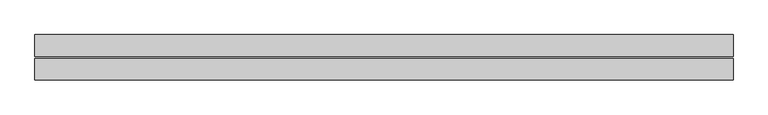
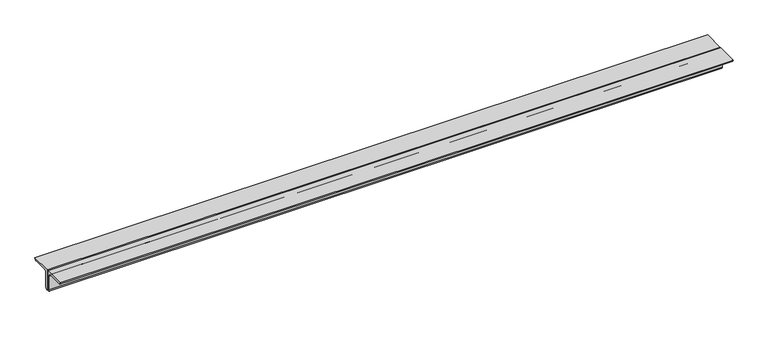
"""IFC4 building model written with IfcOpenShell, lengths in millimetres: beam geometry, Profilati doppi a L : DCED150x12."""

import ifcopenshell
import ifcopenshell.guid

model = None  # the IFC model being written
_history = None  # IfcOwnerHistory: only IFC2X3 demands one
_inside = {}  # id of a spatial element -> (the spatial element, [elements in it])
_under = {}  # id of a project, library or spatial element -> (it, [spatial elements below it])
_declared = {}  # id of a project -> (the project, [libraries it declares])
_typed = {}  # id of a type object -> (the type object, [elements of that type])
_made_of = {}  # id of a material, layer set ... -> (it, [elements and type objects made of it])


def new_model(schema):
    """Start an empty IFC model of exactly this schema.

    Asked for "IFC4X3", IfcOpenShell would pick the latest addendum, in which some entities
    have other attributes; the version numbers below select the first issue.
    IFC2X3 requires an IfcOwnerHistory on every rooted entity: one is made here for all.
    """
    global model, _history
    if schema == "IFC4X3":
        model = ifcopenshell.file(schema_version=(4, 3, 0, 0))
    else:
        model = ifcopenshell.file(schema=schema)
    _inside.clear()
    _under.clear()
    _declared.clear()
    _typed.clear()
    _made_of.clear()
    _history = None
    if model.schema == "IFC2X3":
        org = make("IfcOrganization", Name="unknown")
        user = make(
            "IfcPersonAndOrganization",
            ThePerson=make("IfcPerson", FamilyName="unknown"),
            TheOrganization=org,
        )
        app = make(
            "IfcApplication",
            ApplicationDeveloper=org,
            Version="unknown",
            ApplicationFullName="unknown",
            ApplicationIdentifier="unknown",
        )
        _history = make(
            "IfcOwnerHistory",
            OwningUser=user,
            OwningApplication=app,
            ChangeAction="ADDED",
            CreationDate=0,
        )
    return model


def make(cls, **values):
    """One entity of the class cls with the attributes given. An attribute that is None is left unset."""
    return model.create_entity(
        cls, **{name: value for name, value in values.items() if value is not None}
    )


def rooted(cls, **values):
    """An entity with a GlobalId (a new one), such as an element, a storey or a relation."""
    return make(cls, GlobalId=ifcopenshell.guid.new(), OwnerHistory=_history, **values)


def si_unit(unit_type, name, prefix=None):
    """IfcSIUnit, for example si_unit("LENGTHUNIT", "METRE", prefix="MILLI")."""
    return make("IfcSIUnit", UnitType=unit_type, Prefix=prefix, Name=name)


def assignment(units):
    """IfcUnitAssignment: the units of a project."""
    return None if units is None else make("IfcUnitAssignment", Units=units)


def point(xyz):
    """IfcCartesianPoint."""
    return None if xyz is None else make("IfcCartesianPoint", Coordinates=xyz)


def direction(xyz):
    """IfcDirection."""
    return None if xyz is None else make("IfcDirection", DirectionRatios=xyz)


def frame(location, z_axis=None, x_axis=None):
    """IfcAxis2Placement3D, a coordinate frame: its origin and axes. An axis left out is left unset."""
    return make(
        "IfcAxis2Placement3D",
        Location=point(location),
        Axis=direction(z_axis),
        RefDirection=direction(x_axis),
    )


def frame_2d(location, x_axis=None):
    """IfcAxis2Placement2D, a coordinate frame in the plane: its origin and x axis."""
    return make(
        "IfcAxis2Placement2D", Location=point(location), RefDirection=direction(x_axis)
    )


def origin():
    """The frame at (0, 0, 0) with its axes left unset."""
    return frame((0.0, 0.0, 0.0))


def place(relative_to, where):
    """IfcLocalPlacement: puts the frame where relative to a parent placement (None: the world)."""
    return make(
        "IfcLocalPlacement", PlacementRelTo=relative_to, RelativePlacement=where
    )


def context(
    kind, dimensions, precision=None, world=None, true_north=None, identifier=None
):
    """IfcGeometricRepresentationContext, for example the 3D "Model" context."""
    return make(
        "IfcGeometricRepresentationContext",
        ContextIdentifier=identifier,
        ContextType=kind,
        CoordinateSpaceDimension=dimensions,
        Precision=precision,
        WorldCoordinateSystem=world,
        TrueNorth=true_north,
    )


def project(units=None, contexts=None):
    """IfcProject with its units and contexts."""
    return rooted(
        "IfcProject",
        Name="project",
        RepresentationContexts=contexts,
        UnitsInContext=assignment(units),
    )


def spatial(cls, under=None, at=None, **own):
    """A site, building, storey or space (cls), placed at a placement, below another one or the project."""
    s = rooted(cls, ObjectPlacement=at, **own)
    if under is not None:
        _under.setdefault(under.id(), (under, []))[1].append(s)
    return s


def polyline(points):
    """IfcPolyline through the points."""
    return make("IfcPolyline", Points=[point(p) for p in points])


def circle_curve(where, radius):
    """IfcCircle in the frame where."""
    return make("IfcCircle", Position=where, Radius=radius)


def trimmed(basis, trim1, trim2, sense, master):
    """IfcTrimmedCurve: the piece of a basis curve between two trims."""
    return make(
        "IfcTrimmedCurve",
        BasisCurve=basis,
        Trim1=trim1,
        Trim2=trim2,
        SenseAgreement=sense,
        MasterRepresentation=master,
    )


def segment(curve, same_sense, transition):
    """IfcCompositeCurveSegment."""
    return make(
        "IfcCompositeCurveSegment",
        Transition=transition,
        SameSense=same_sense,
        ParentCurve=curve,
    )


def composite_curve(segments, self_intersect=None):
    """IfcCompositeCurve: segments joined end to end."""
    return make("IfcCompositeCurve", Segments=segments, SelfIntersect=self_intersect)


def outline(outer, holes=None, kind="AREA"):
    """IfcArbitraryClosedProfileDef: a profile drawn as a closed curve; with holes, ...WithVoids."""
    if holes is None:
        return make("IfcArbitraryClosedProfileDef", ProfileType=kind, OuterCurve=outer)
    return make(
        "IfcArbitraryProfileDefWithVoids",
        ProfileType=kind,
        OuterCurve=outer,
        InnerCurves=holes,
    )


def extrude(swept, where, along, depth):
    """IfcExtrudedAreaSolid: the profile swept, set in the frame where, extruded along a direction by depth."""
    return make(
        "IfcExtrudedAreaSolid",
        SweptArea=swept,
        Position=where,
        ExtrudedDirection=direction(along),
        Depth=depth,
    )


def shape(context_of_items, identifier, shape_type, items):
    """IfcShapeRepresentation: the items that make up one representation, for example the "Body"."""
    return make(
        "IfcShapeRepresentation",
        ContextOfItems=context_of_items,
        RepresentationIdentifier=identifier,
        RepresentationType=shape_type,
        Items=items,
    )


def source(mapping_origin, context_of_items, identifier, shape_type, items):
    """IfcRepresentationMap: a shape defined once, which mapped items show again and again."""
    return make(
        "IfcRepresentationMap",
        MappingOrigin=mapping_origin,
        MappedRepresentation=shape(context_of_items, identifier, shape_type, items),
    )


def transform(
    local_origin,
    x_axis=None,
    y_axis=None,
    z_axis=None,
    scale=None,
    scale2=None,
    scale3=None,
    uniform=True,
):
    """IfcCartesianTransformationOperator3D, or its non-uniform kind. x_axis, y_axis, z_axis: its Axis1, 2, 3."""
    if uniform:
        return make(
            "IfcCartesianTransformationOperator3D",
            Axis1=direction(x_axis),
            Axis2=direction(y_axis),
            LocalOrigin=point(local_origin),
            Scale=scale,
            Axis3=direction(z_axis),
        )
    return make(
        "IfcCartesianTransformationOperator3DnonUniform",
        Axis1=direction(x_axis),
        Axis2=direction(y_axis),
        LocalOrigin=point(local_origin),
        Scale=scale,
        Axis3=direction(z_axis),
        Scale2=scale2,
        Scale3=scale3,
    )


def mapped(mapping_source, mapping_target):
    """IfcMappedItem: shows the shape of a source again, moved by a transform."""
    return make(
        "IfcMappedItem", MappingSource=mapping_source, MappingTarget=mapping_target
    )


def made_of(thing, what):
    """Note that an element or type object is made of a material, layer set ...; save() writes the relation."""
    if what is not None:
        _made_of.setdefault(what.id(), (what, []))[1].append(thing)
    return thing


def element(
    cls,
    number,
    at=None,
    inside=None,
    cuts=None,
    type_object=None,
    material=None,
    context=None,
    identifier="Body",
    shape_type=None,
    held_by="IfcProductDefinitionShape",
    body=None,
    shapes=None,
    **own,
):
    """One element of the class cls, such as IfcWall. Its Tag is "e" and its number.

    at: its placement. inside: the storey or other place that contains it. cuts: it is an
    opening in that element (IfcRelVoidsElement). A single representation is given by context,
    identifier, shape_type and body (its items); several are given by shapes. held_by: the class
    of the entity that holds the representations. save() writes the other relations.
    """
    e = rooted(cls, Tag="e%d" % number, ObjectPlacement=at, **own)
    if body is not None:
        shapes = [shape(context, identifier, shape_type, body)]
    if shapes is not None:
        e.Representation = make(held_by, Representations=shapes)
    if inside is not None:
        _inside.setdefault(inside.id(), (inside, []))[1].append(e)
    if cuts is not None:
        rooted(
            "IfcRelVoidsElement", RelatingBuildingElement=cuts, RelatedOpeningElement=e
        )
    if type_object is not None:
        _typed.setdefault(type_object.id(), (type_object, []))[1].append(e)
    return made_of(e, material)


def aggregate(whole, parts):
    """IfcRelAggregates: a whole, such as a stair, and the parts it consists of."""
    return rooted("IfcRelAggregates", RelatingObject=whole, RelatedObjects=parts)


def save(model, path):
    """Write the relations noted so far, then the file.

    IfcRelAggregates (storeys below a building ...), IfcRelContainedInSpatialStructure (elements
    in a storey), IfcRelDefinesByType, IfcRelAssociatesMaterial and IfcRelDeclares: one each for
    every whole, place, type object, material and project.
    """
    for whole, parts in _under.values():
        aggregate(whole, parts)
    for where, things in _inside.values():
        rooted(
            "IfcRelContainedInSpatialStructure",
            RelatedElements=things,
            RelatingStructure=where,
        )
    for kind, things in _typed.values():
        rooted("IfcRelDefinesByType", RelatedObjects=things, RelatingType=kind)
    for what, things in _made_of.values():
        rooted("IfcRelAssociatesMaterial", RelatedObjects=things, RelatingMaterial=what)
    for by, libraries in _declared.values():
        rooted("IfcRelDeclares", RelatingContext=by, RelatedDefinitions=libraries)
    model.write(path)


def beam_b7eeabf2(model_context):
    return source(origin(), model_context, "Body", "SweptSolid", [
        extrude(outline(composite_curve([segment(polyline([(-6.0, 42.4), (-6.0, -107.6)]), True, "CONTINUOUS"), segment(trimmed(circle_curve(frame_2d((-6.0, -92.6)), 15.0), [point((-6.0, -107.6))], [point((-21.0, -92.6))], False, "CARTESIAN"), True, "CONTINUOUS"), segment(polyline([(-21.0, -92.6), (-21.0, 12.4)]), True, "CONTINUOUS"), segment(trimmed(circle_curve(frame_2d((-36.0, 12.4)), 15.0), [point((-21.0, 12.4))], [point((-36.0, 27.4))], True, "CARTESIAN"), True, "CONTINUOUS"), segment(polyline([(-36.0, 27.4), (-141.0, 27.4)]), True, "CONTINUOUS"), segment(trimmed(circle_curve(frame_2d((-141.0, 42.4)), 15.0), [point((-141.0, 27.4))], [point((-156.0, 42.4))], False, "CARTESIAN"), True, "CONTINUOUS"), segment(polyline([(-156.0, 42.4), (-6.0, 42.4)]), True, "CONTINUOUS")], self_intersect=False)), frame((-2115.0, 0.0, 0.0), z_axis=(1.0, 0.0, 0.0), x_axis=(0.0, 1.0, 0.0)), (0.0, 0.0, 1.0), 4779.0),
        extrude(outline(composite_curve([segment(polyline([(6.0, 42.4), (156.0, 42.4)]), True, "CONTINUOUS"), segment(trimmed(circle_curve(frame_2d((141.0, 42.4)), 15.0), [point((156.0, 42.4))], [point((141.0, 27.4))], False, "CARTESIAN"), True, "CONTINUOUS"), segment(polyline([(141.0, 27.4), (36.0, 27.4)]), True, "CONTINUOUS"), segment(trimmed(circle_curve(frame_2d((36.0, 12.4)), 15.0), [point((36.0, 27.4))], [point((21.0, 12.4))], True, "CARTESIAN"), True, "CONTINUOUS"), segment(polyline([(21.0, 12.4), (21.0, -92.6)]), True, "CONTINUOUS"), segment(trimmed(circle_curve(frame_2d((6.0, -92.6)), 15.0), [point((21.0, -92.6))], [point((6.0, -107.6))], False, "CARTESIAN"), True, "CONTINUOUS"), segment(polyline([(6.0, -107.6), (6.0, 42.4)]), True, "CONTINUOUS")], self_intersect=False)), frame((-2115.0, 0.0, 0.0), z_axis=(1.0, 0.0, 0.0), x_axis=(0.0, 1.0, 0.0)), (0.0, 0.0, 1.0), 4779.0),
    ])


if __name__ == "__main__":
    model = new_model("IFC4")
    model_context = context("Model", 3, world=origin())
    ifc_project = project(units=[si_unit("LENGTHUNIT", "METRE", prefix="MILLI")], contexts=[model_context])
    site = spatial("IfcSite", under=ifc_project)
    building = spatial("IfcBuilding", under=site)
    placement = place(None, origin())
    beam_shape = beam_b7eeabf2(model_context)
    element("IfcBeam", 1, ObjectType="Profilati doppi a L : DCED150x12", at=placement, inside=building, context=model_context, shape_type="MappedRepresentation", body=[
        mapped(beam_shape, transform((0.0, 0.0, 0.0), x_axis=(1.0, 0.0, 0.0), y_axis=(0.0, 1.0, 0.0), z_axis=(0.0, 0.0, 1.0))),
    ])
    save(model, "model.ifc")
